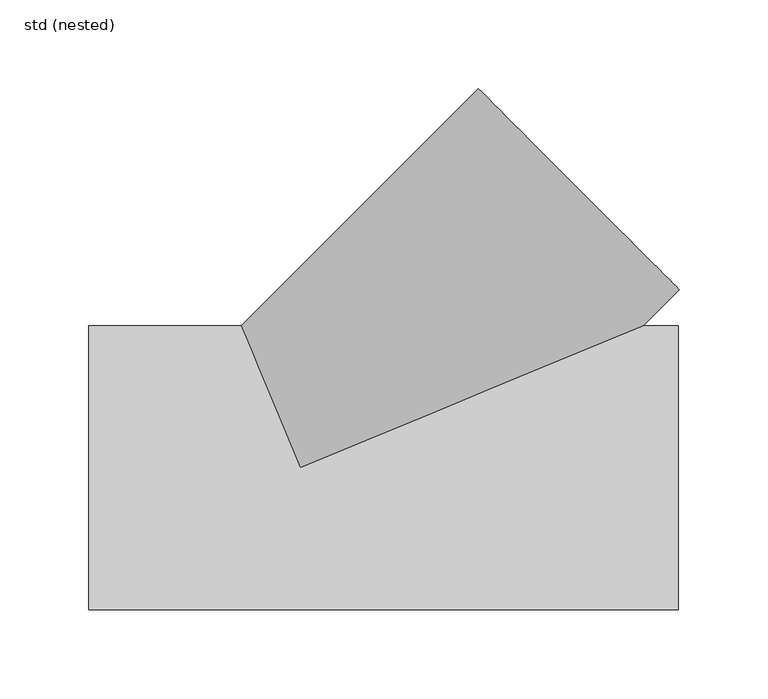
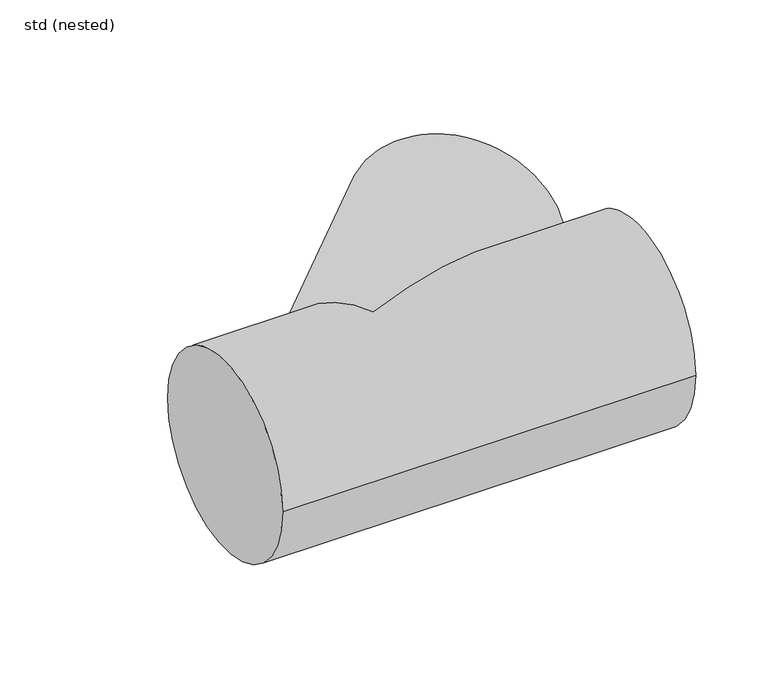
"""IFC4 building model written with IfcOpenShell, lengths in millimetres: pipe fitting geometry, ZZZ_do not use_PIF_ST_UN_ACO pipe branch_ACO : std (nested)."""

from ifc_helpers import new_model, si_unit, frame, origin, place, context, project, spatial, circle_curve, ellipse_curve, source, transform, mapped, element, save
from ifc_brep_helpers import plane_surface, cylinder_surface, advanced_brep


def std_nested_ad07eb86(model_context):
    return source(origin(), model_context, "Body", "AdvancedBrep", [
        advanced_brep(
        [(213.0, -80.0, 0.0), (213.0, 80.0, 0.0), (-119.0, -80.0, 0.0), (-119.0, 80.0, 0.0), (-33.1327183, 80.0, 0.0), (0.0, 0.0, -80.0), (193.1625392, 80.0, 0.0), (0.0, 0.0, 80.0), (213.5556033, 100.3892639, 0.0), (100.429061, 213.5368907, 0.0)],
        [
            (0, 1, circle_curve(frame((213.0, 0.0, 0.0), z_axis=(1.0, 0.0, 0.0), x_axis=(0.0, 1.0, 0.0)), 80.0)),
            (1, 0, circle_curve(frame((213.0, 0.0, 0.0), z_axis=(1.0, 0.0, 0.0), x_axis=(0.0, 1.0, 0.0)), 80.0)),
            (2, 3, circle_curve(frame((-119.0, 0.0, 0.0), z_axis=(-1.0, 0.0, 0.0), x_axis=(0.0, 1.0, 0.0)), 80.0)),
            (3, 2, circle_curve(frame((-119.0, 0.0, 0.0), z_axis=(-1.0, 0.0, 0.0), x_axis=(0.0, 1.0, 0.0)), 80.0)),
            (0, 2),
            (3, 4),
            (4, 5, ellipse_curve(frame((0.0, 0.0, 0.0), z_axis=(-0.9238973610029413, -0.3826403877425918, 0.0), x_axis=(0.3826403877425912, -0.9238973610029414, 0.0)), 86.5897051, 80.0)),
            (5, 6, ellipse_curve(frame((0.0, 0.0, 0.0), z_axis=(0.38264038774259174, -0.9238973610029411, 0.0), x_axis=(0.9238973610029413, 0.3826403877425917, 0.0)), 209.0735912, 80.0)),
            (6, 1),
            (6, 7, ellipse_curve(frame((0.0, 0.0, 0.0), z_axis=(0.38264038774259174, -0.9238973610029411, 0.0), x_axis=(0.9238973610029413, 0.3826403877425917, 0.0)), 209.0735912, 80.0)),
            (7, 4, ellipse_curve(frame((0.0, 0.0, 0.0), z_axis=(-0.9238973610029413, -0.3826403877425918, 0.0), x_axis=(0.3826403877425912, -0.9238973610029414, 0.0)), 86.5897051, 80.0)),
            (8, 9, circle_curve(frame((156.9923321, 156.9630773, 0.0), z_axis=(0.707172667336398, 0.7070408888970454, 0.0), x_axis=(-0.7070408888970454, 0.707172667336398, 0.0)), 80.0)),
            (9, 8, circle_curve(frame((156.9923321, 156.9630773, 0.0), z_axis=(0.707172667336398, 0.7070408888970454, 0.0), x_axis=(-0.7070408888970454, 0.707172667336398, 0.0)), 80.0)),
            (9, 4),
            (6, 8),
        ],
        [
            plane_surface(frame((213.0, 80.0, 0.0), z_axis=(1.0, 0.0, 0.0), x_axis=(0.0, 0.0, 1.0))),
            plane_surface(frame((-119.0, 80.0, 0.0), z_axis=(-1.0, 0.0, 0.0), x_axis=(0.0, 0.0, -1.0))),
            cylinder_surface(frame((-119.0, 0.0, 0.0), z_axis=(1.0, 0.0, 0.0), x_axis=(0.0, 1.0, 0.0)), 80.0),
            plane_surface(frame((156.9923321, 156.9630773, 0.0), z_axis=(0.7071726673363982, 0.7070408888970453, 0.0), x_axis=(0.0, 0.0, 1.0))),
            cylinder_surface(frame((0.0, 0.0, 0.0), z_axis=(-0.707172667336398, -0.7070408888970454, 0.0), x_axis=(-0.7070408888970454, 0.707172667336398, 0.0)), 80.0),
        ],
        [
            (0, [[1, 2]]),
            (1, [[3, 4]]),
            (2, [[-1, 5, -4, 6, 7, 8, 9]]),
            (2, [[-2, -9, 10, 11, -6, -3, -5]]),
            (3, [[12, 13]]),
            (4, [[-13, 14, -11, -10, 15]]),
            (4, [[-12, -15, -8, -7, -14]]),
        ],
    ),
    ])


if __name__ == "__main__":
    model = new_model("IFC4")
    model_context = context("Model", 3, world=origin())
    ifc_project = project(units=[si_unit("LENGTHUNIT", "METRE", prefix="MILLI")], contexts=[model_context])
    site = spatial("IfcSite", under=ifc_project)
    building = spatial("IfcBuilding", under=site)
    placement = place(None, origin())
    std_nested_shape = std_nested_ad07eb86(model_context)
    element("IfcPipeFitting", 1, ObjectType="ZZZ_do not use_PIF_ST_UN_ACO pipe branch_ACO : std (nested)", at=placement, inside=building, context=model_context, shape_type="MappedRepresentation", body=[
        mapped(std_nested_shape, transform((0.0, 0.0, 0.0), x_axis=(1.0, 0.0, 0.0), y_axis=(0.0, 1.0, 0.0), z_axis=(0.0, 0.0, 1.0))),
    ])
    save(model, "model.ifc")
